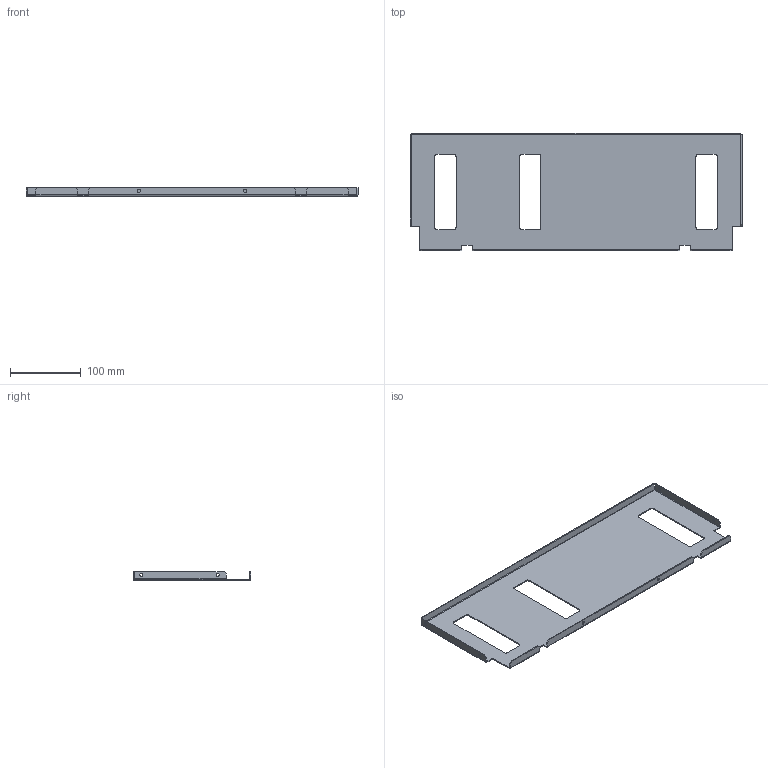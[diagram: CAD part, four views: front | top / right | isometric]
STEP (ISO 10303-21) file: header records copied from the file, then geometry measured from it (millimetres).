
FILE_DESCRIPTION(('CAx-IF Rec.Pracs.---Model Styling and Organization---1.2---2011-12-15','CAx-IF Rec.Pracs.---Geometric and Assembly Validation Properties---4.1---2014-06-16','CAx-IF Rec.Pracs.---PMI Polyline Presentation---2.0---2013-05-24'),'2;1');
FILE_NAME('R5MW4M1BP.stp','2021-05-05T12:59:19+03:00',(''),(''),'STEP Interface 4.4 by CT CoreTechnologie','3D_Evolution4.4 by CT CoreTechnologie','');
FILE_SCHEMA(('AUTOMOTIVE_DESIGN { 1 0 10303 214 1 1 1 1 }'));
Length unit declared in the file: millimetre
Products named in the file (2): R5MW4M1BP; RB.1511.00.00.0_-01
Assembly tree (1 placements, depth 2):
  R5MW4M1BP
    RB.1511.00.00.0_-01
Bounding box: 469 x 166.5 x 12 mm (x, y, z)
Surface area: 160295.3 mm2 (no closed solid volume)
Topology: 0 solids, 1 shells, 104 faces, 270 edges, 168 vertices
Faces by surface type: plane 64, cylinder 36, bspline 4
Entity records: 3311 total; most frequent: CARTESIAN_POINT 620, DIRECTION 546, ORIENTED_EDGE 540, EDGE_CURVE 270, VECTOR 198, LINE 198, AXIS2_PLACEMENT_3D 174, VERTEX_POINT 168
